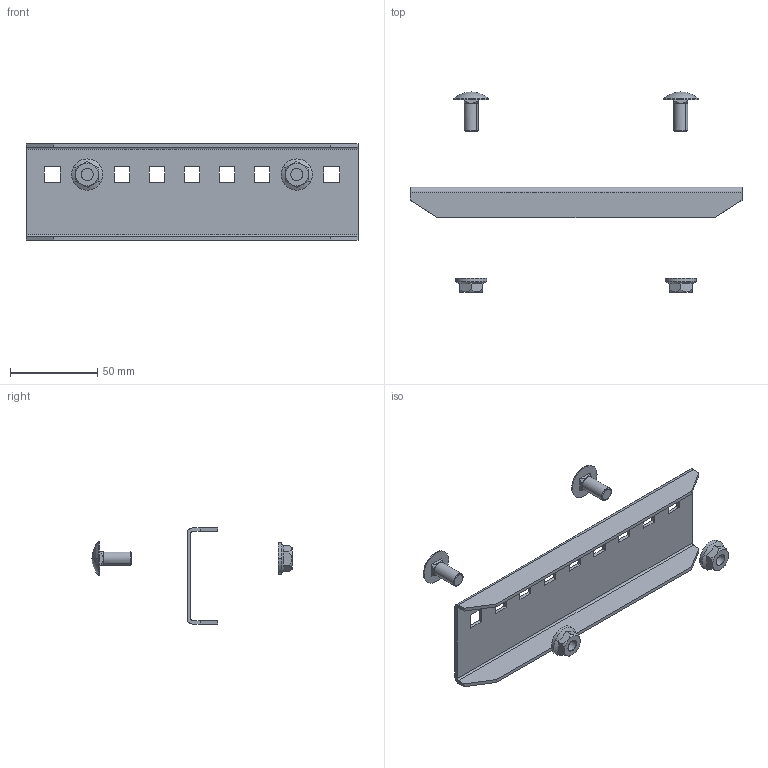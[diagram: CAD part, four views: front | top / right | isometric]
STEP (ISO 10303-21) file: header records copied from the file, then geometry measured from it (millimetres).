
FILE_DESCRIPTION(('Creo Elements/Direct Modeling STEP Export'),'2;1');
FILE_NAME('//pserver/office/EK/ME10-3D/3D-output/WPC06-HDG KAT.stp','2019-08-14T 9:34:21',(''),(''),'PTC Creo Elements/Direct Modeling STEP processor for AP214 (Solid Model)','PTC Creo Elements/Direct Modeling 19.0C 15-Aug-2015 (C) Parametric Technology GmbH','');
FILE_SCHEMA(('AUTOMOTIVE_DESIGN { 1 0 10303 214 1 1 1 1 }'));
Length unit declared in the file: millimetre
Products named in the file (4): WPV-P_60; SEMS_8.1; FRSV_8x16E; WPC06-HDG_KAT
Assembly tree (5 placements, depth 2):
  WPC06-HDG_KAT
    SEMS_8.1  x2
    FRSV_8x16E  x2
    WPV-P_60
Bounding box: 190 x 114.5 x 55 mm (x, y, z)
Volume: 35706.6 mm3; surface area: 35789.9 mm2
Topology: 5 solids, 5 shells, 182 faces, 472 edges, 298 vertices
Faces by surface type: plane 78, cylinder 64, cone 36, sphere 4
Entity records: 5899 total; most frequent: CARTESIAN_POINT 2325, ORIENTED_EDGE 732, DIRECTION 690, EDGE_CURVE 366, VERTEX_POINT 237, AXIS2_PLACEMENT_3D 236, VECTOR 218, LINE 218
